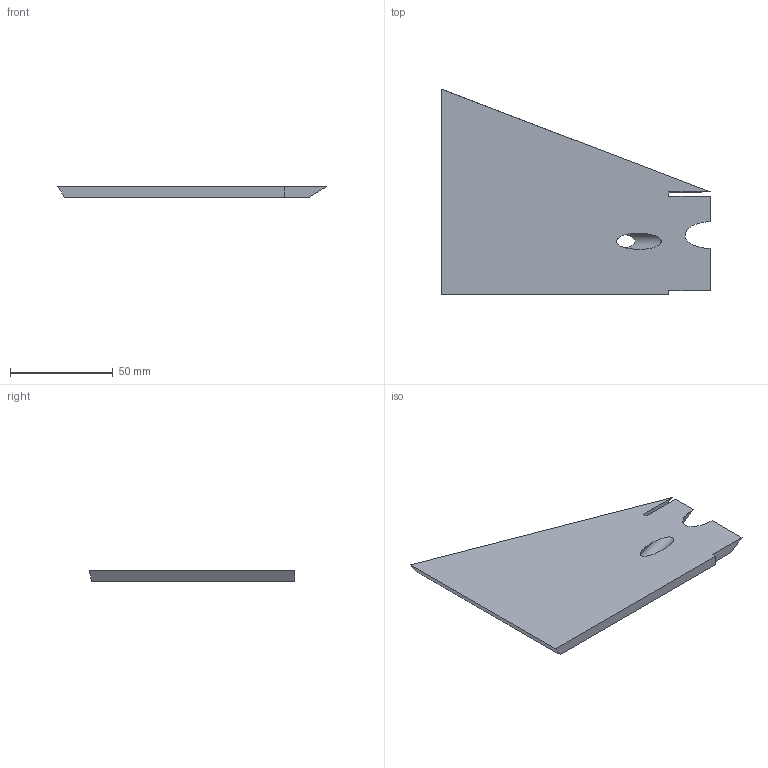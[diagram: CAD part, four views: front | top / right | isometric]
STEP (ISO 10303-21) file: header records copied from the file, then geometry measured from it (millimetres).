
FILE_DESCRIPTION(('STEP AP214'),'1');
FILE_NAME('tmp0.step','2025-04-03T13:28:01',(' '),(' '),'Spatial InterOp 3D',' ',' ');
FILE_SCHEMA(('AUTOMOTIVE_DESIGN { 1 0 10303 214 1 1 1 1 }'));
Length unit declared in the file: millimetre
Products named in the file (1): 1
Bounding box: 130.38 x 100 x 5 mm (x, y, z)
Volume: 45481.9 mm3; surface area: 21102.5 mm2
Topology: 1 solids, 1 shells, 22 faces, 59 edges, 39 vertices
Faces by surface type: plane 19, cylinder 3
Entity records: 710 total; most frequent: CARTESIAN_POINT 121, ORIENTED_EDGE 118, DIRECTION 111, EDGE_CURVE 59, LINE 53, VECTOR 53, VERTEX_POINT 39, AXIS2_PLACEMENT_3D 29
